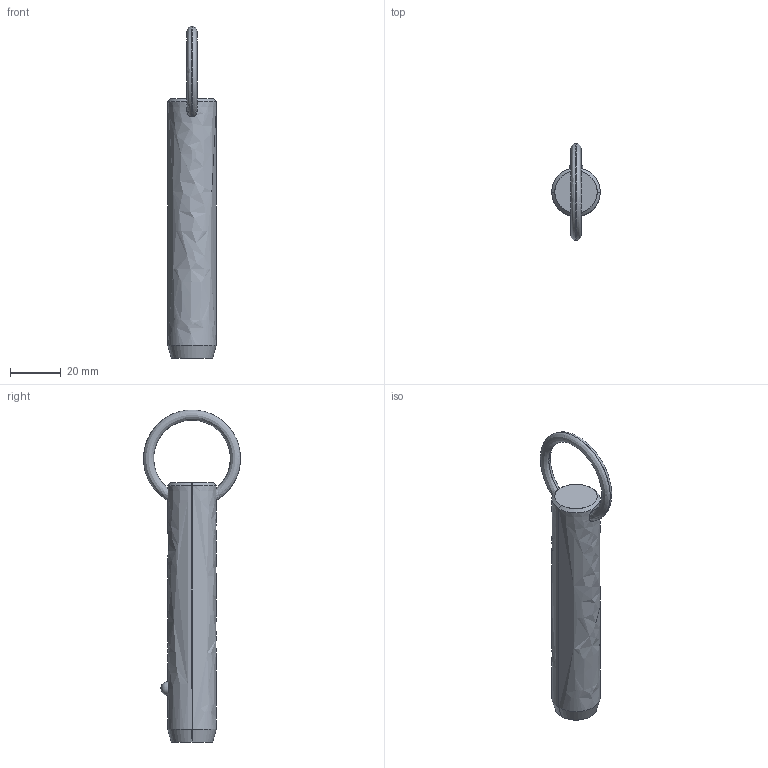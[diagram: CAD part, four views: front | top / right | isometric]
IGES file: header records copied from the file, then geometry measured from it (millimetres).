
Start section: SolidWorks IGES file using analytic representation for surfaces
Global section: file name: C:\Users\liam_\OneDrive\Documents\WORK\Work for WixRoyd\Job Files\J-00019 - Matt Davis CAD Checking\04. CAD Drawings\automotion20190605\P1250.2_v2\P1250.2_v2_20190729_IGES\P1250.075-270.igs; native system: SolidWorks 2017; preprocessor: SolidWorks 2017; author: liam_; date: 190729.235045; units: millimetre
Bounding box: 19 x 38.08 x 130.39 mm (x, y, z)
Surface area: 7609.3 mm2 (no closed solid volume)
Topology: 0 solids, 0 shells, 12 faces, 294 edges, 292 vertices
Faces by surface type: revolution 8, bspline 4
